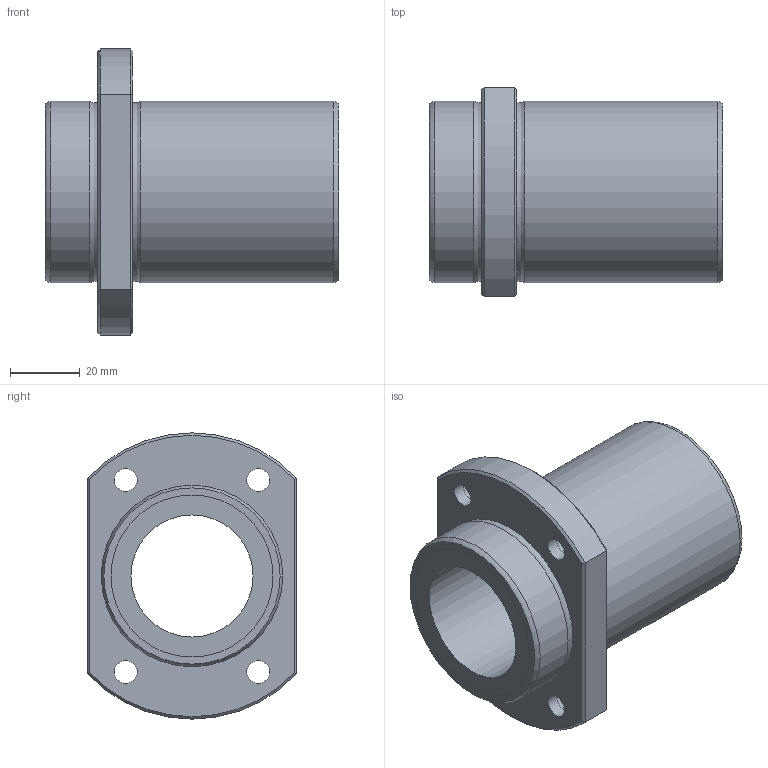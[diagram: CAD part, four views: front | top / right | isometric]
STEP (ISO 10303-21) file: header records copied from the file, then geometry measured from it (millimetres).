
FILE_DESCRIPTION((''),'2;1');
FILE_NAME('C:\Documents and Settings\土屋\My Documents\土屋移動用フォルダ\製品 (図面)\カタログ用3D\変換ファイル\OZAK_3D-CAD(STEP形式)\Part1.-Linear Bearings_ﾘﾆｱﾍﾞｱﾘﾝｸﾞ\09_Maintenance Free_ﾒｲﾝﾃﾅﾝｽﾌﾘｰ\L2017-09-21T13:53:43','2017-09-21T13:53:43',('y'),(''),'Autodesk Inventor 11','Autodesk Inventor 11','');
FILE_SCHEMA(('AUTOMOTIVE_DESIGN { 1 0 10303 214 1 1 1 1 }'));
Length unit declared in the file: millimetre
Products named in the file (1): LFTB-MF
Bounding box: 84 x 60 x 82 mm (x, y, z)
Volume: 117060.5 mm3; surface area: 31402.4 mm2
Topology: 1 solids, 1 shells, 39 faces, 75 edges, 46 vertices
Faces by surface type: bspline 14, plane 12, cylinder 7, cone 4, torus 2
Full cylindrical faces by diameter (mm): 35 x1, 46.4 x2, 52 x2
Entity records: 1177 total; most frequent: CARTESIAN_POINT 440, DIRECTION 140, ORIENTED_EDGE 116, EDGE_LOOP 74, AXIS2_PLACEMENT_3D 64, EDGE_CURVE 58, VERTEX_POINT 46, FACE_OUTER_BOUND 39
